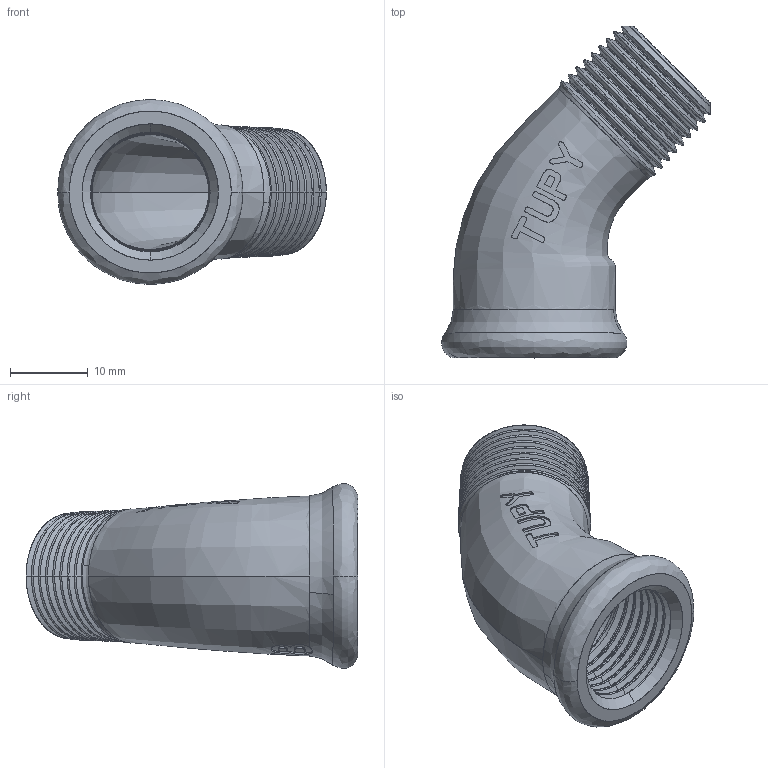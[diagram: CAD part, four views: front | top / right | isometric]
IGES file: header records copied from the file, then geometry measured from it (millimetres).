
Start section: SolidWorks IGES file using analytic representation for surfaces
Global section: file name: C:\Users\Joel Rosa\Desktop\Tubulação\12-10-XXX\12-10-003.IGS; native system: SolidWorks 2011; preprocessor: SolidWorks 2011; author: Joel Rosa; date: 121216.020658; units: millimetre
Bounding box: 34.53 x 42.63 x 23.8 mm (x, y, z)
Surface area: 5412.4 mm2 (no closed solid volume)
Topology: 0 solids, 0 shells, 286 faces, 3257 edges, 3257 vertices
Faces by surface type: bspline 216, revolution 70
